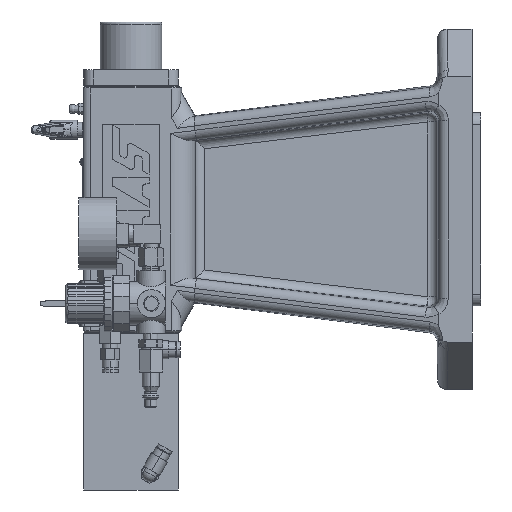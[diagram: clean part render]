
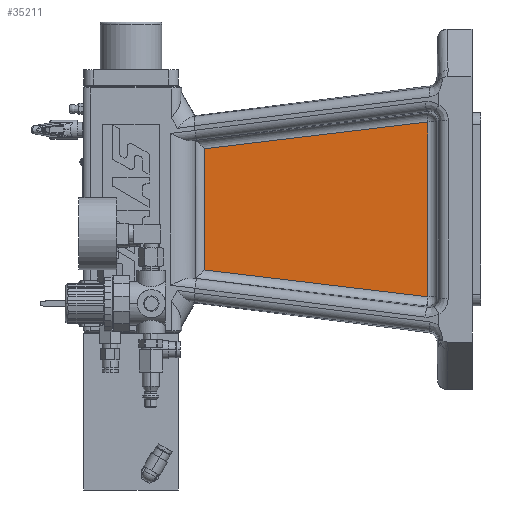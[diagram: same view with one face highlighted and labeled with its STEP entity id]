
A CAD part, left-side view. The second image highlights one B-rep face of the part: STEP entity #35211.
In plain terms, the highlighted planar face has unit normal (-1, 0, 0).
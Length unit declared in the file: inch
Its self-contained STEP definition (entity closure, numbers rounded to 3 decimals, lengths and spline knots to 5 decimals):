
#876 = VECTOR ( 'NONE', #28936, 39.37008 ) ;
#1636 = DIRECTION ( 'NONE',  ( 0., 0., -1. ) ) ;
#1813 = VECTOR ( 'NONE', #1636, 39.37008 ) ;
#3588 = CARTESIAN_POINT ( 'NONE',  ( -0.3, -7.83656, 2.30691 ) ) ;
#3757 = DIRECTION ( 'NONE',  ( 0., 0., -1. ) ) ;
#4749 = VERTEX_POINT ( 'NONE', #28364 ) ;
#9853 = PLANE ( 'NONE',  #38135 ) ;
#10739 = FACE_OUTER_BOUND ( 'NONE', #24296, .T. ) ;
#12654 = VECTOR ( 'NONE', #32862, 39.37008 ) ;
#12975 = DIRECTION ( 'NONE',  ( 0., 0., 1. ) ) ;
#13761 = EDGE_CURVE ( 'Defeatured_5_56+Defeatured_5_85+Defeatured_5_87+Defeatured_5_82', #4749, #36841, #19226, .T. ) ;
#15570 = CARTESIAN_POINT ( 'NONE',  ( -0.3, -8.88043, 2.43246 ) ) ;
#17398 = ORIENTED_EDGE ( 'NONE', *, *, #28734, .T. ) ;
#18406 = LINE ( 'NONE', #15570, #12654 ) ;
#19072 = LINE ( 'NONE', #28373, #27253 ) ;
#19226 = LINE ( 'NONE', #32194, #876 ) ;
#20289 = LINE ( 'NONE', #23329, #1813 ) ;
#23329 = CARTESIAN_POINT ( 'NONE',  ( -0.3, -1.95085, -1.81688 ) ) ;
#24296 = EDGE_LOOP ( 'NONE', ( #25414, #17398, #29016, #30203 ) ) ;
#25414 = ORIENTED_EDGE ( 'NONE', *, *, #25887, .T. ) ;
#25887 = EDGE_CURVE ( 'Defeatured_5_56+Defeatured_5_86+Defeatured_5_82+Defeatured_5_87', #33509, #27733, #18406, .T. ) ;
#25949 = CARTESIAN_POINT ( 'NONE',  ( -0.3, -7.83656, -2.30691 ) ) ;
#27253 = VECTOR ( 'NONE', #12975, 39.37008 ) ;
#27733 = VERTEX_POINT ( 'NONE', #34672 ) ;
#28364 = CARTESIAN_POINT ( 'NONE',  ( -0.3, -1.95085, -1.59899 ) ) ;
#28373 = CARTESIAN_POINT ( 'NONE',  ( -0.3, -7.83656, 0. ) ) ;
#28709 = CARTESIAN_POINT ( 'NONE',  ( -0.3, -9.173, 0. ) ) ;
#28734 = EDGE_CURVE ( 'Defeatured_5_56+Defeatured_5_87+Defeatured_5_86+Defeatured_5_85', #27733, #4749, #20289, .T. ) ;
#28936 = DIRECTION ( 'NONE',  ( 0., -0.993, -0.119 ) ) ;
#29016 = ORIENTED_EDGE ( 'NONE', *, *, #13761, .T. ) ;
#30203 = ORIENTED_EDGE ( 'NONE', *, *, #36716, .T. ) ;
#32194 = CARTESIAN_POINT ( 'NONE',  ( -0.3, -8.88043, -2.43246 ) ) ;
#32862 = DIRECTION ( 'NONE',  ( 0., 0.993, -0.119 ) ) ;
#33509 = VERTEX_POINT ( 'NONE', #3588 ) ;
#34672 = CARTESIAN_POINT ( 'NONE',  ( -0.3, -1.95085, 1.59899 ) ) ;
#35211 = ADVANCED_FACE ( 'Defeatured_5_56', ( #10739 ), #9853, .F. ) ;
#36716 = EDGE_CURVE ( 'Defeatured_5_56+Defeatured_5_82+Defeatured_5_85+Defeatured_5_86', #36841, #33509, #19072, .T. ) ;
#36841 = VERTEX_POINT ( 'NONE', #25949 ) ;
#38135 = AXIS2_PLACEMENT_3D ( 'NONE', #28709, #38192, #3757 ) ;
#38192 = DIRECTION ( 'NONE',  ( 1., 0., 0. ) ) ;
